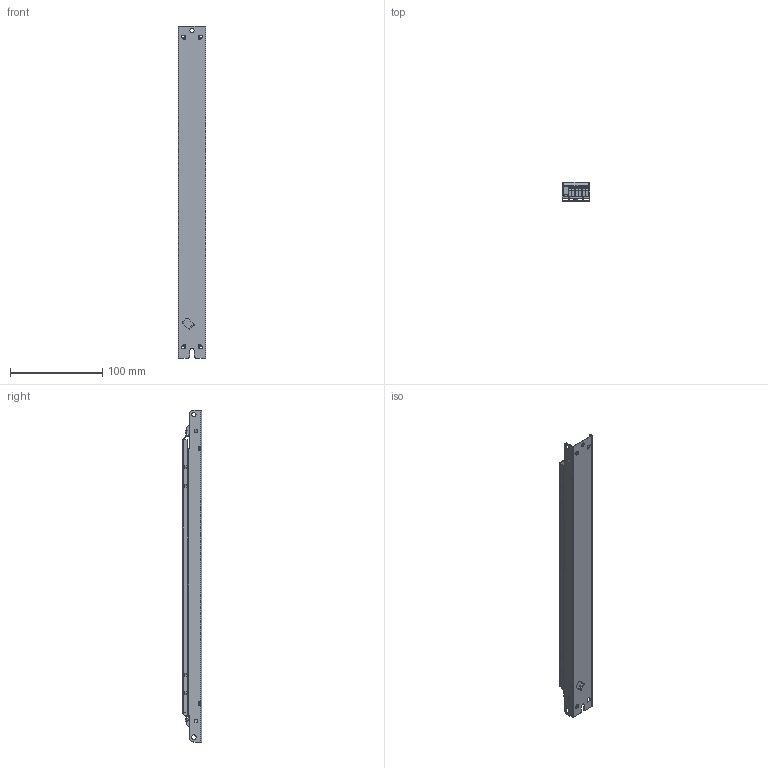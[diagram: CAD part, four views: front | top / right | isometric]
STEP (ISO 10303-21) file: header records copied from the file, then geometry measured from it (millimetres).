
FILE_DESCRIPTION (( 'STEP AP203' ), '1' );
FILE_NAME ('LL1x50-E-DA.STEP', '2015-06-05T11:23:19', ( '' ), ( '' ), 'SwSTEP 2.0', 'SolidWorks 2014', '' );
FILE_SCHEMA (( 'CONFIG_CONTROL_DESIGN' ));
Length unit declared in the file: millimetre
Products named in the file (5): LL1x50-E-DA_; liitin 1x2; liitin 1x1_dummy; liitin 1x1; LL1x50-E-DA
Assembly tree (5 placements, depth 2):
  LL1x50-E-DA
    LL1x50-E-DA_
    liitin 1x2  x2
    liitin 1x1_dummy
    liitin 1x1
Bounding box: 30.04 x 20.81 x 360 mm (x, y, z)
Surface area: 96379.4 mm2
Topology: 2 solids, 18 shells, 838 faces, 2898 edges, 1978 vertices
Faces by surface type: plane 463, cylinder 300, bspline 75
Entity records: 32740 total; most frequent: CARTESIAN_POINT 11848, ORIENTED_EDGE 4158, DIRECTION 3746, EDGE_CURVE 2589, VERTEX_POINT 1783, VECTOR 1734, LINE 1734, AXIS2_PLACEMENT_3D 1006
